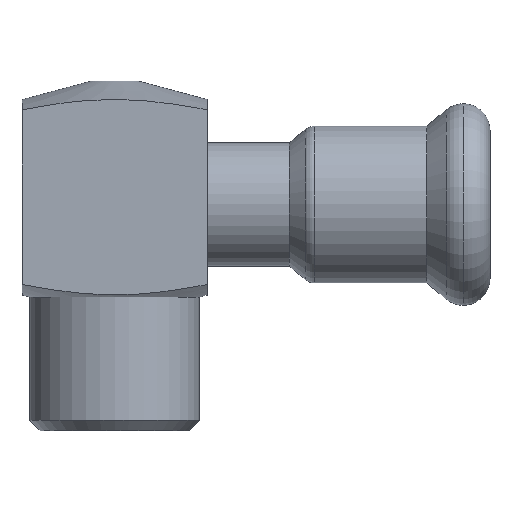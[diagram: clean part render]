
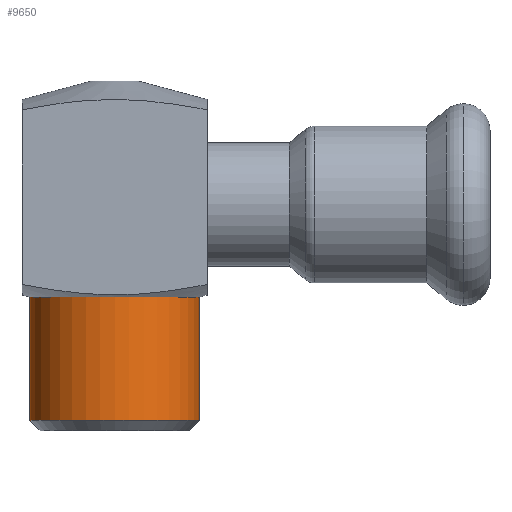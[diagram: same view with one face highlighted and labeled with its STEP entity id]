
A CAD part, top view. The second image highlights one B-rep face of the part: STEP entity #9650.
In plain terms, the highlighted cylindrical face has radius 8.25 mm (diameter 16.5 mm), a partial arc.
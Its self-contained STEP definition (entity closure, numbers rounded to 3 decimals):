
#6840=CARTESIAN_POINT('',(308.25,-9.,0.));
#6850=VERTEX_POINT('',#6840);
#6880=CARTESIAN_POINT('',(300.,-9.,0.));
#6890=DIRECTION('',(0.,1.,0.));
#6900=DIRECTION('',(1.,0.,0.));
#6910=AXIS2_PLACEMENT_3D('',#6880,#6890,#6900);
#6920=CIRCLE('',#6910,8.25);
#6930=CARTESIAN_POINT('',(291.75,-9.,0.
));
#6940=VERTEX_POINT('',#6930);
#6950=EDGE_CURVE('',#6940,#6850,#6920,.T.);
#9340=CARTESIAN_POINT('',(300.,-14.55,0.));
#9350=DIRECTION('',(0.,1.,0.));
#9360=DIRECTION('',(1.,0.,0.));
#9370=AXIS2_PLACEMENT_3D('',#9340,#9350,#9360);
#9380=CYLINDRICAL_SURFACE('',#9370,8.25);
#9390=CARTESIAN_POINT('',(291.75,-14.55,0.));
#9400=DIRECTION('',(0.,1.,0.));
#9410=VECTOR('',#9400,1.);
#9420=LINE('',#9390,#9410);
#9430=CARTESIAN_POINT('',(291.75,-21.,0.));
#9440=VERTEX_POINT('',#9430);
#9450=EDGE_CURVE('',#9440,#6940,#9420,.T.);
#9460=ORIENTED_EDGE('',*,*,#9450,.F.);
#9470=ORIENTED_EDGE('',*,*,#6950,.F.);
#9480=CARTESIAN_POINT('',(308.25,-14.55,0.));
#9490=DIRECTION('',(0.,1.,0.));
#9500=VECTOR('',#9490,1.);
#9510=LINE('',#9480,#9500);
#9520=CARTESIAN_POINT('',(308.25,-21.,0.));
#9530=VERTEX_POINT('',#9520);
#9540=EDGE_CURVE('',#9530,#6850,#9510,.T.);
#9550=ORIENTED_EDGE('',*,*,#9540,.T.);
#9560=CARTESIAN_POINT('',(300.,-21.,0.));
#9570=DIRECTION('',(0.,1.,0.));
#9580=DIRECTION('',(1.,0.,0.));
#9590=AXIS2_PLACEMENT_3D('',#9560,#9570,#9580);
#9600=CIRCLE('',#9590,8.25);
#9610=EDGE_CURVE('',#9440,#9530,#9600,.T.);
#9620=ORIENTED_EDGE('',*,*,#9610,.T.);
#9630=EDGE_LOOP('',(#9620,#9550,#9470,#9460));
#9640=FACE_OUTER_BOUND('',#9630,.T.);
#9650=ADVANCED_FACE('',(#9640),#9380,.T.);
